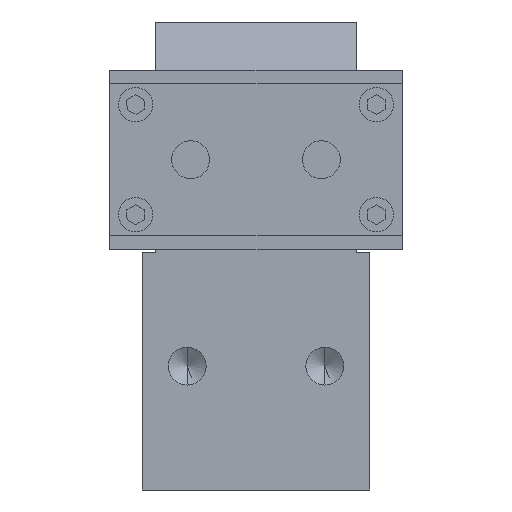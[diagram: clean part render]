
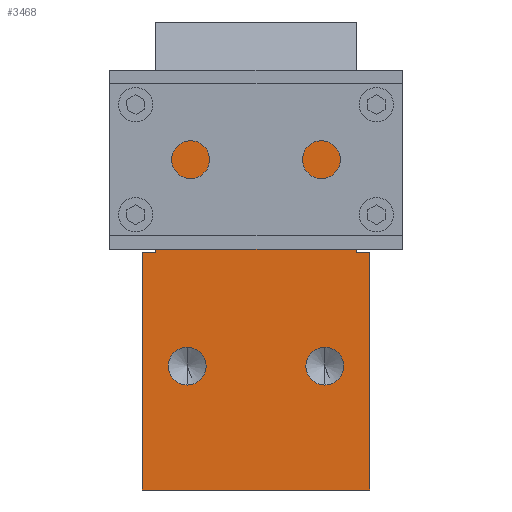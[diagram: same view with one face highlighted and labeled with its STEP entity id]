
A CAD part, left-side view. The second image highlights one B-rep face of the part: STEP entity #3468.
In plain terms, the highlighted planar face has unit normal (-1, 0, 0).
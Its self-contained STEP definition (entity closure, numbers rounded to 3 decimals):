
#931 = LINE ( 'NONE', #1000, #1035 ) ;
#947 = LINE ( 'NONE', #1003, #1076 ) ;
#949 = CARTESIAN_POINT ( 'NONE',  ( -112., -62.3, 121. ) ) ;
#963 = LINE ( 'NONE', #977, #976 ) ;
#964 = DIRECTION ( 'NONE',  ( 0., 1., 0. ) ) ;
#965 = VECTOR ( 'NONE', #964, 1000. ) ;
#966 = CARTESIAN_POINT ( 'NONE',  ( -112., -3.7, 121. ) ) ;
#967 = LINE ( 'NONE', #966, #965 ) ;
#968 = CARTESIAN_POINT ( 'NONE',  ( -112., -3.7, 121. ) ) ;
#970 = CARTESIAN_POINT ( 'NONE',  ( -112., -62.3, 136. ) ) ;
#971 = LINE ( 'NONE', #970, #1078 ) ;
#975 = DIRECTION ( 'NONE',  ( 0., -1., 0. ) ) ;
#976 = VECTOR ( 'NONE', #975, 1000. ) ;
#977 = CARTESIAN_POINT ( 'NONE',  ( -112., -134.258, 0. ) ) ;
#1000 = CARTESIAN_POINT ( 'NONE',  ( -112., -3.7, 136. ) ) ;
#1003 = CARTESIAN_POINT ( 'NONE',  ( -112., 0., 69. ) ) ;
#1005 = CIRCLE ( 'NONE', #1074, 5.5 ) ;
#1034 = DIRECTION ( 'NONE',  ( 0., 0., -1. ) ) ;
#1035 = VECTOR ( 'NONE', #1034, 1000. ) ;
#1068 = DIRECTION ( 'NONE',  ( 0., 0., -1. ) ) ;
#1071 = DIRECTION ( 'NONE',  ( 0., 0., 1. ) ) ;
#1072 = DIRECTION ( 'NONE',  ( -1., 0., 0. ) ) ;
#1073 = CARTESIAN_POINT ( 'NONE',  ( -112., -13., 36. ) ) ;
#1074 = AXIS2_PLACEMENT_3D ( 'NONE', #1073, #1072, #1071 ) ;
#1076 = VECTOR ( 'NONE', #1068, 1000. ) ;
#1077 = DIRECTION ( 'NONE',  ( 0., 0., -1. ) ) ;
#1078 = VECTOR ( 'NONE', #1077, 1000. ) ;
#1607 = DIRECTION ( 'NONE',  ( 0., 0., 1. ) ) ;
#1608 = DIRECTION ( 'NONE',  ( -1., 0., 0. ) ) ;
#1609 = AXIS2_PLACEMENT_3D ( 'NONE', #1614, #1608, #1607 ) ;
#1610 = CIRCLE ( 'NONE', #1609, 5.5 ) ;
#1611 = DIRECTION ( 'NONE',  ( 0., 0., -1. ) ) ;
#1612 = DIRECTION ( 'NONE',  ( 1., 0., 0. ) ) ;
#1613 = CARTESIAN_POINT ( 'NONE',  ( -112., -134.258, 69. ) ) ;
#1614 = CARTESIAN_POINT ( 'NONE',  ( -112., -53., 36. ) ) ;
#1615 = FACE_BOUND ( 'NONE', #3505, .T. ) ;
#1623 = AXIS2_PLACEMENT_3D ( 'NONE', #1613, #1612, #1611 ) ;
#1625 = FACE_BOUND ( 'NONE', #3454, .T. ) ;
#1629 = PLANE ( 'NONE',  #1623 ) ;
#1630 = FACE_OUTER_BOUND ( 'NONE', #3473, .T. ) ;
#2265 = CARTESIAN_POINT ( 'NONE',  ( -112., -13., 41.5 ) ) ;
#2270 = DIRECTION ( 'NONE',  ( 0., 0., 1. ) ) ;
#2271 = AXIS2_PLACEMENT_3D ( 'NONE', #2273, #2280, #2270 ) ;
#2273 = CARTESIAN_POINT ( 'NONE',  ( -112., -13., 36. ) ) ;
#2278 = CIRCLE ( 'NONE', #2271, 5.5 ) ;
#2280 = DIRECTION ( 'NONE',  ( -1., 0., 0. ) ) ;
#2281 = CARTESIAN_POINT ( 'NONE',  ( -112., -13., 30.5 ) ) ;
#2897 = DIRECTION ( 'NONE',  ( 0., 0., -1. ) ) ;
#2898 = VECTOR ( 'NONE', #2897, 1000. ) ;
#2899 = CARTESIAN_POINT ( 'NONE',  ( -112., -66., 69. ) ) ;
#2900 = LINE ( 'NONE', #2899, #2898 ) ;
#3302 = VERTEX_POINT ( 'NONE', #4654 ) ;
#3316 = VERTEX_POINT ( 'NONE', #4672 ) ;
#3332 = VERTEX_POINT ( 'NONE', #4770 ) ;
#3354 = EDGE_CURVE ( 'NONE', #3380, #3316, #4820, .T. ) ;
#3355 = EDGE_CURVE ( 'NONE', #3302, #3332, #4786, .T. ) ;
#3373 = ORIENTED_EDGE ( 'NONE', *, *, #3476, .T. ) ;
#3374 = VERTEX_POINT ( 'NONE', #4775 ) ;
#3380 = VERTEX_POINT ( 'NONE', #4890 ) ;
#3384 = EDGE_CURVE ( 'NONE', #3426, #3413, #4896, .T. ) ;
#3413 = VERTEX_POINT ( 'NONE', #4924 ) ;
#3426 = VERTEX_POINT ( 'NONE', #4932 ) ;
#3433 = VERTEX_POINT ( 'NONE', #5011 ) ;
#3454 = EDGE_LOOP ( 'NONE', ( #3456, #3455 ) ) ;
#3455 = ORIENTED_EDGE ( 'NONE', *, *, #5536, .F. ) ;
#3456 = ORIENTED_EDGE ( 'NONE', *, *, #3502, .F. ) ;
#3468 = ADVANCED_FACE ( 'NONE', ( #1625, #1615, #1630 ), #1629, .F. ) ;
#3469 = EDGE_CURVE ( 'NONE', #3413, #3426, #1610, .T. ) ;
#3473 = EDGE_LOOP ( 'NONE', ( #3499, #3373, #3496, #5680, #5678, #5918, #3479, #5663 ) ) ;
#3474 = EDGE_CURVE ( 'NONE', #3500, #3302, #971, .T. ) ;
#3475 = EDGE_CURVE ( 'NONE', #3477, #3316, #931, .T. ) ;
#3476 = EDGE_CURVE ( 'NONE', #3500, #3477, #967, .T. ) ;
#3477 = VERTEX_POINT ( 'NONE', #968 ) ;
#3479 = ORIENTED_EDGE ( 'NONE', *, *, #5919, .F. ) ;
#3480 = EDGE_CURVE ( 'NONE', #3433, #3374, #963, .T. ) ;
#3496 = ORIENTED_EDGE ( 'NONE', *, *, #3475, .T. ) ;
#3498 = ORIENTED_EDGE ( 'NONE', *, *, #3469, .F. ) ;
#3499 = ORIENTED_EDGE ( 'NONE', *, *, #3474, .F. ) ;
#3500 = VERTEX_POINT ( 'NONE', #949 ) ;
#3501 = ORIENTED_EDGE ( 'NONE', *, *, #3384, .F. ) ;
#3502 = EDGE_CURVE ( 'NONE', #5550, #5531, #1005, .T. ) ;
#3504 = EDGE_CURVE ( 'NONE', #3380, #3433, #947, .T. ) ;
#3505 = EDGE_LOOP ( 'NONE', ( #3498, #3501 ) ) ;
#4654 = CARTESIAN_POINT ( 'NONE',  ( -112., -62.3, 69. ) ) ;
#4672 = CARTESIAN_POINT ( 'NONE',  ( -112., -3.7, 69. ) ) ;
#4770 = CARTESIAN_POINT ( 'NONE',  ( -112., -66., 69. ) ) ;
#4775 = CARTESIAN_POINT ( 'NONE',  ( -112., -66., 0. ) ) ;
#4785 = CARTESIAN_POINT ( 'NONE',  ( -112., -134.258, 69. ) ) ;
#4786 = LINE ( 'NONE', #4785, #4795 ) ;
#4788 = DIRECTION ( 'NONE',  ( 0., -1., 0. ) ) ;
#4789 = VECTOR ( 'NONE', #4788, 1000. ) ;
#4794 = DIRECTION ( 'NONE',  ( 0., -1., 0. ) ) ;
#4795 = VECTOR ( 'NONE', #4794, 1000. ) ;
#4804 = DIRECTION ( 'NONE',  ( 0., 0., 1. ) ) ;
#4819 = CARTESIAN_POINT ( 'NONE',  ( -112., -134.258, 69. ) ) ;
#4820 = LINE ( 'NONE', #4819, #4789 ) ;
#4844 = AXIS2_PLACEMENT_3D ( 'NONE', #4847, #4882, #4804 ) ;
#4847 = CARTESIAN_POINT ( 'NONE',  ( -112., -53., 36. ) ) ;
#4882 = DIRECTION ( 'NONE',  ( -1., 0., 0. ) ) ;
#4890 = CARTESIAN_POINT ( 'NONE',  ( -112., 0., 69. ) ) ;
#4896 = CIRCLE ( 'NONE', #4844, 5.5 ) ;
#4924 = CARTESIAN_POINT ( 'NONE',  ( -112., -53., 41.5 ) ) ;
#4932 = CARTESIAN_POINT ( 'NONE',  ( -112., -53., 30.5 ) ) ;
#5011 = CARTESIAN_POINT ( 'NONE',  ( -112., 0., 0. ) ) ;
#5531 = VERTEX_POINT ( 'NONE', #2281 ) ;
#5536 = EDGE_CURVE ( 'NONE', #5531, #5550, #2278, .T. ) ;
#5550 = VERTEX_POINT ( 'NONE', #2265 ) ;
#5663 = ORIENTED_EDGE ( 'NONE', *, *, #3355, .F. ) ;
#5678 = ORIENTED_EDGE ( 'NONE', *, *, #3504, .T. ) ;
#5680 = ORIENTED_EDGE ( 'NONE', *, *, #3354, .F. ) ;
#5918 = ORIENTED_EDGE ( 'NONE', *, *, #3480, .T. ) ;
#5919 = EDGE_CURVE ( 'NONE', #3332, #3374, #2900, .T. ) ;
